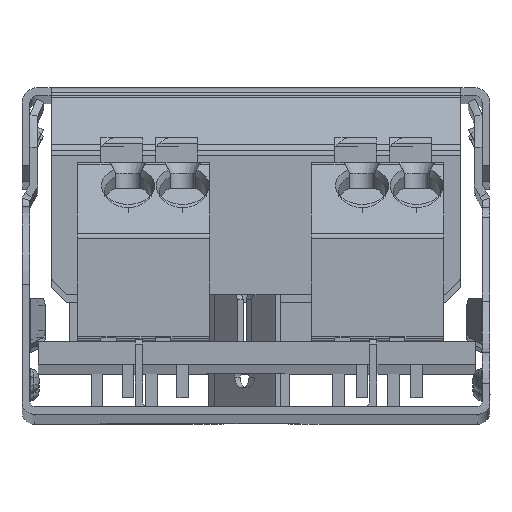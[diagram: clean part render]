
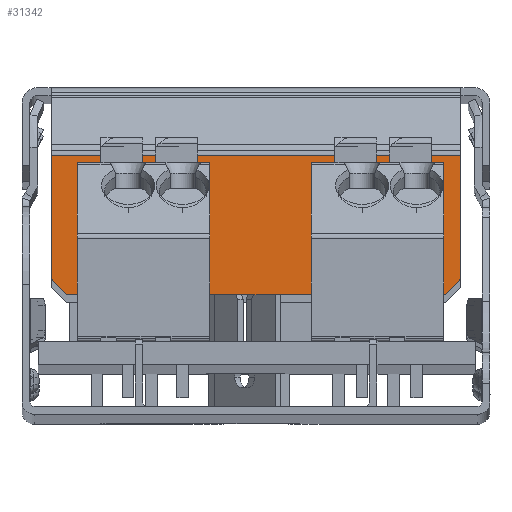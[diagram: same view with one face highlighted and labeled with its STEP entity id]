
A CAD part, top view. The second image highlights one B-rep face of the part: STEP entity #31342.
In plain terms, the highlighted planar face has unit normal (0, 0, 1).
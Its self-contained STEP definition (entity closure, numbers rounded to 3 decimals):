
#197 = VERTEX_POINT ( 'NONE', #20193 ) ;
#307 = CARTESIAN_POINT ( 'NONE',  ( 0., -227.951, 241.108 ) ) ;
#1777 = ORIENTED_EDGE ( 'NONE', *, *, #26804, .F. ) ;
#3262 = VECTOR ( 'NONE', #24576, 1000. ) ;
#4172 = CARTESIAN_POINT ( 'NONE',  ( 12.115, -227.971, 241.108 ) ) ;
#4574 = DIRECTION ( 'NONE',  ( -1., 0., 0. ) ) ;
#4590 = CARTESIAN_POINT ( 'NONE',  ( -13.135, -223.51, 241.108 ) ) ;
#4949 = VECTOR ( 'NONE', #14046, 1000. ) ;
#5238 = ORIENTED_EDGE ( 'NONE', *, *, #22472, .F. ) ;
#5851 = LINE ( 'NONE', #36913, #4949 ) ;
#6334 = DIRECTION ( 'NONE',  ( -1., 0., 0. ) ) ;
#6596 = CARTESIAN_POINT ( 'NONE',  ( 12.135, -227.951, 241.108 ) ) ;
#6876 = CARTESIAN_POINT ( 'NONE',  ( -13.155, -226.931, 241.108 ) ) ;
#7031 = ORIENTED_EDGE ( 'NONE', *, *, #7340, .F. ) ;
#7340 = EDGE_CURVE ( 'NONE', #23904, #28444, #37169, .T. ) ;
#7409 = LINE ( 'NONE', #34850, #36897 ) ;
#11139 = VERTEX_POINT ( 'NONE', #23776 ) ;
#13066 = CARTESIAN_POINT ( 'NONE',  ( -12.135, -227.951, 241.108 ) ) ;
#13120 = LINE ( 'NONE', #4172, #19802 ) ;
#13981 = ORIENTED_EDGE ( 'NONE', *, *, #25565, .T. ) ;
#14046 = DIRECTION ( 'NONE',  ( 0., -1., 0. ) ) ;
#15018 = AXIS2_PLACEMENT_3D ( 'NONE', #15963, #21668, #4574 ) ;
#15963 = CARTESIAN_POINT ( 'NONE',  ( 13.661, -218.675, 241.108 ) ) ;
#17643 = DIRECTION ( 'NONE',  ( -1., 0., 0. ) ) ;
#18931 = VECTOR ( 'NONE', #32660, 1000. ) ;
#19631 = VERTEX_POINT ( 'NONE', #33882 ) ;
#19802 = VECTOR ( 'NONE', #27047, 1000. ) ;
#20193 = CARTESIAN_POINT ( 'NONE',  ( 13.135, -219.068, 241.108 ) ) ;
#21668 = DIRECTION ( 'NONE',  ( 0., 0., 1. ) ) ;
#22009 = ORIENTED_EDGE ( 'NONE', *, *, #22730, .F. ) ;
#22472 = EDGE_CURVE ( 'NONE', #23419, #19631, #25198, .T. ) ;
#22730 = EDGE_CURVE ( 'NONE', #11139, #23904, #13120, .T. ) ;
#23398 = EDGE_LOOP ( 'NONE', ( #1777, #7031, #22009, #32194, #13981, #5238 ) ) ;
#23419 = VERTEX_POINT ( 'NONE', #30534 ) ;
#23776 = CARTESIAN_POINT ( 'NONE',  ( 13.135, -226.951, 241.108 ) ) ;
#23904 = VERTEX_POINT ( 'NONE', #6596 ) ;
#24576 = DIRECTION ( 'NONE',  ( 0., 1., 0. ) ) ;
#25198 = LINE ( 'NONE', #4590, #3262 ) ;
#25565 = EDGE_CURVE ( 'NONE', #197, #19631, #7409, .T. ) ;
#26804 = EDGE_CURVE ( 'NONE', #28444, #23419, #34171, .T. ) ;
#27047 = DIRECTION ( 'NONE',  ( -0.707, -0.707, 0. ) ) ;
#28444 = VERTEX_POINT ( 'NONE', #13066 ) ;
#28650 = EDGE_CURVE ( 'NONE', #197, #11139, #5851, .T. ) ;
#29570 = VECTOR ( 'NONE', #17643, 1000. ) ;
#30222 = PLANE ( 'NONE',  #15018 ) ;
#30534 = CARTESIAN_POINT ( 'NONE',  ( -13.135, -226.951, 241.108 ) ) ;
#31342 = ADVANCED_FACE ( 'NONE', ( #34769 ), #30222, .T. ) ;
#32194 = ORIENTED_EDGE ( 'NONE', *, *, #28650, .F. ) ;
#32660 = DIRECTION ( 'NONE',  ( -0.707, 0.707, 0. ) ) ;
#33882 = CARTESIAN_POINT ( 'NONE',  ( -13.135, -219.068, 241.108 ) ) ;
#34171 = LINE ( 'NONE', #6876, #18931 ) ;
#34769 = FACE_OUTER_BOUND ( 'NONE', #23398, .T. ) ;
#34850 = CARTESIAN_POINT ( 'NONE',  ( 0., -219.068, 241.108 ) ) ;
#36897 = VECTOR ( 'NONE', #6334, 1000. ) ;
#36913 = CARTESIAN_POINT ( 'NONE',  ( 13.135, -223.51, 241.108 ) ) ;
#37169 = LINE ( 'NONE', #307, #29570 ) ;
